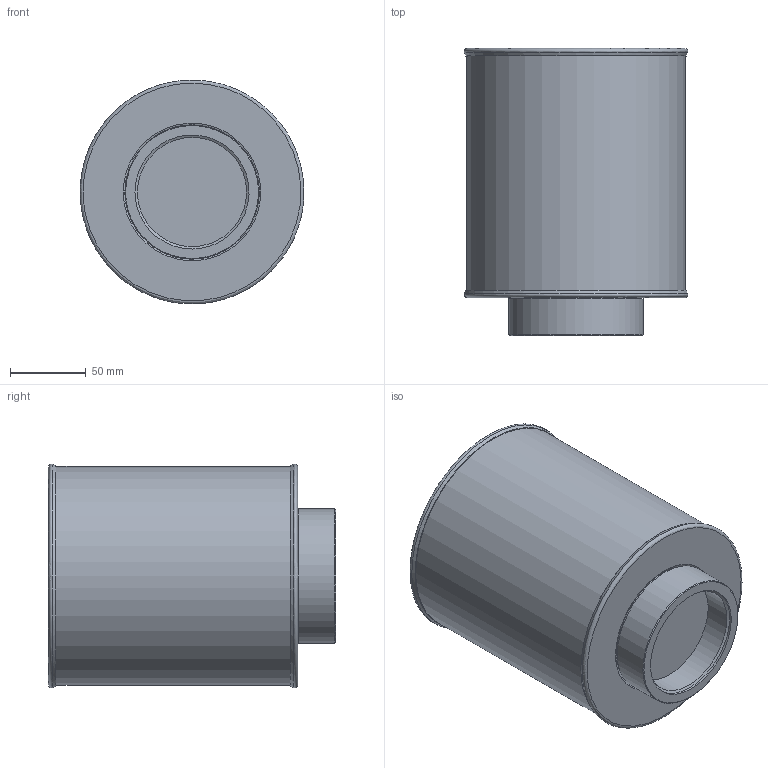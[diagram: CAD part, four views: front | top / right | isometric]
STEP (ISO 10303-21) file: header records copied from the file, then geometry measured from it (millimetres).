
FILE_DESCRIPTION((''),'2;1');
FILE_NAME('U:\Users\t.schleuter\Saugfilter14533500(255217).stp', '2013-04-15T10:41:56',('User'),('SDRC'),'I-DEAS Master Series 9','UNIX', 'Yes');
FILE_SCHEMA(('AUTOMOTIVE_DESIGN { 1 0 10303 214 1 1 1 1 }'));
Length unit declared in the file: millimetre
Products named in the file (1): 14533500(255217)
Bounding box: 148.04 x 190 x 148.08 mm (x, y, z)
Volume: 2814775.3 mm3; surface area: 122857.1 mm2
Topology: 1 solids, 1 shells, 23 faces, 37 edges, 22 vertices
Faces by surface type: bspline 23
Entity records: 770 total; most frequent: CARTESIAN_POINT 497, ORIENTED_EDGE 74, EDGE_CURVE 37, EDGE_LOOP 29, FACE_OUTER_BOUND 23, ADVANCED_FACE 23, VERTEX_POINT 22, QUASI_UNIFORM_CURVE 9
